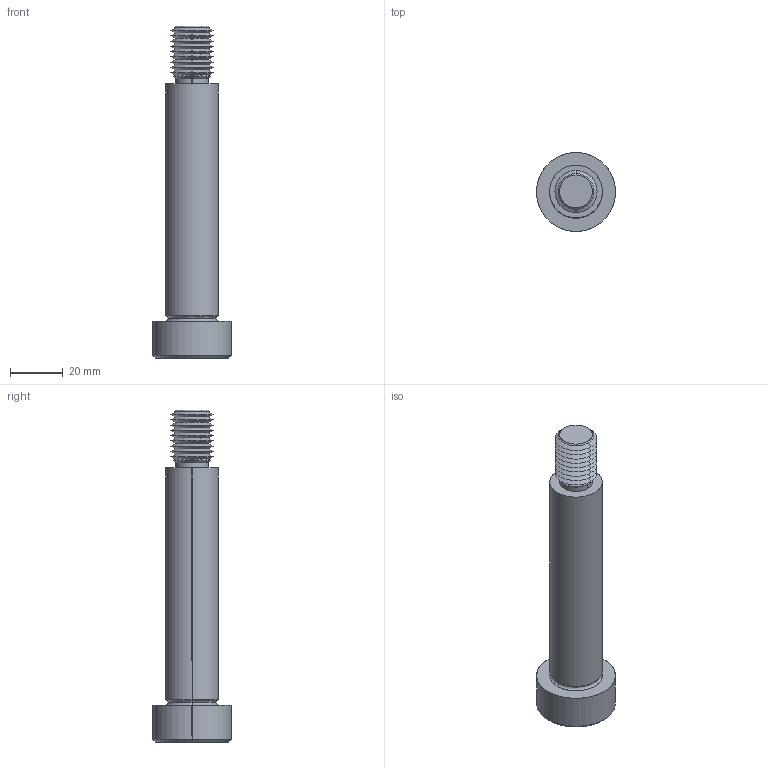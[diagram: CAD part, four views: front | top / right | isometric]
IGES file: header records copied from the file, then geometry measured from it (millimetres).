
Start section: SolidWorks IGES file using analytic representation for surfaces
Global section: file name: C:\Users\IanO\Documents\Temp Folder\GENERAL\SCREW REVISION\P0130_v2\P0130.T5_v2_20220106_IGES\P0130.200-090-T5.igs; native system: SolidWorks 2019; preprocessor: SolidWorks 2019; author: IanO; date: 220106.230322; units: millimetre
Bounding box: 30 x 30 x 126 mm (x, y, z)
Surface area: 10572.9 mm2 (no closed solid volume)
Topology: 0 solids, 0 shells, 80 faces, 692 edges, 690 vertices
Faces by surface type: revolution 60, bspline 20
